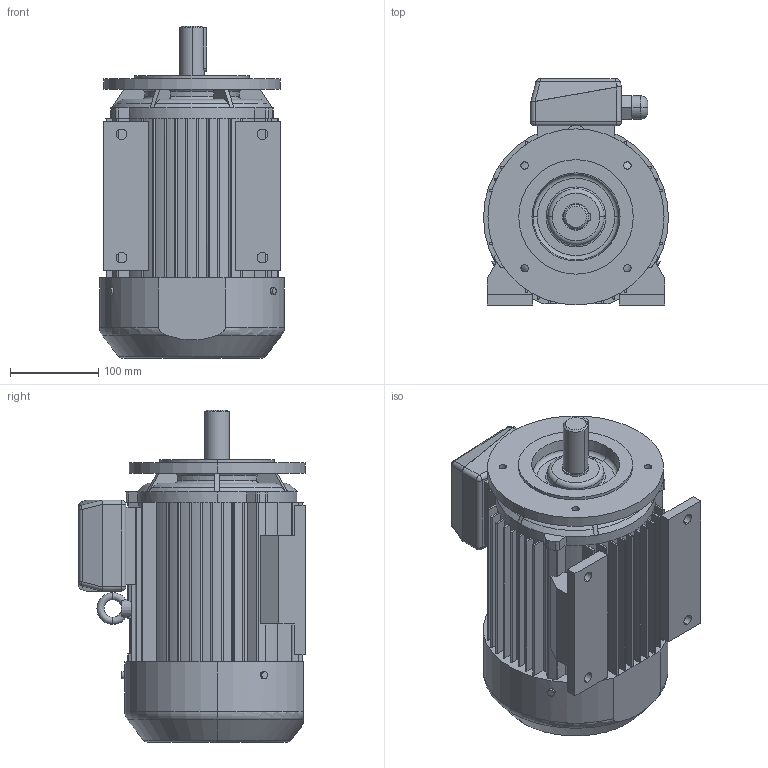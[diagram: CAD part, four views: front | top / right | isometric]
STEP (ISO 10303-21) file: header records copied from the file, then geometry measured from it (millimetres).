
FILE_DESCRIPTION (( 'STEP AP203' ), '1' );
FILE_NAME ('3SIEL100L2,6-B34-C1.STEP', '2016-02-08T12:15:02', ( 'Indukta' ), ( 'Celma Indukta S.A.' ), 'SwSTEP 2.0', 'SolidWorks 2003064', '' );
FILE_SCHEMA (( 'CONFIG_CONTROL_DESIGN' ));
Length unit declared in the file: millimetre
Products named in the file (1): 3SIEL100L2,6-B34-C1
Bounding box: 210 x 257 x 377 mm (x, y, z)
Volume: 9942570.2 mm3; surface area: 526316.4 mm2
Topology: 1 solids, 1 shells, 661 faces, 1792 edges, 1141 vertices
Faces by surface type: plane 335, cylinder 177, bspline 78, torus 43, cone 20, sphere 8
Entity records: 27650 total; most frequent: CARTESIAN_POINT 11265, ORIENTED_EDGE 3568, DIRECTION 3206, EDGE_CURVE 1784, VERTEX_POINT 1141, AXIS2_PLACEMENT_3D 1108, LINE 990, VECTOR 990
